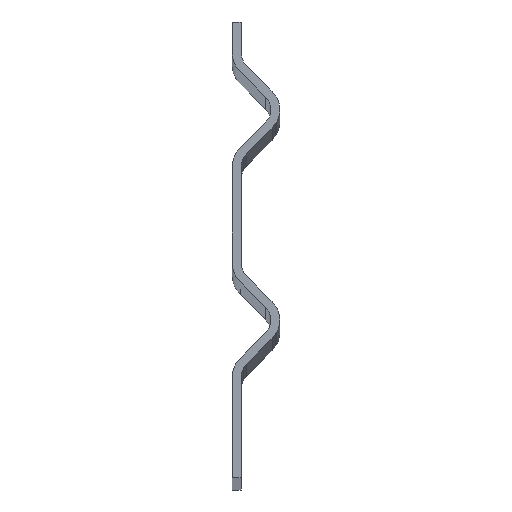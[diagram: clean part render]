
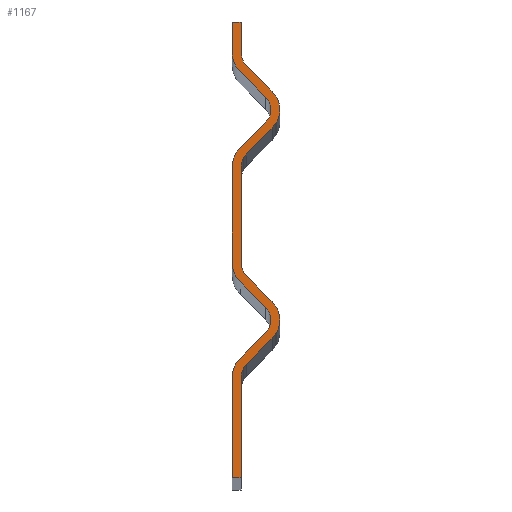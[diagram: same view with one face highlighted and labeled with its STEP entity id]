
A CAD part, top view. The second image highlights one B-rep face of the part: STEP entity #1167.
In plain terms, the highlighted planar face has unit normal (0, 0, 1).
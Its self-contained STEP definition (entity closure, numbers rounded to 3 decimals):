
#429=CARTESIAN_POINT('',(0.,28.822,36.5));
#430=VERTEX_POINT('',#429);
#431=CARTESIAN_POINT('',(2.197,34.126,36.5));
#432=VERTEX_POINT('',#431);
#433=CARTESIAN_POINT('',(7.5,28.822,36.5));
#434=DIRECTION('',(0.0,0.0,-1.));
#435=DIRECTION('',(0.707,-0.707,0.0));
#436=AXIS2_PLACEMENT_3D('',#433,#434,#435);
#437=CIRCLE('',#436,7.5);
#438=EDGE_CURVE('',#430,#432,#437,.T.);
#461=CARTESIAN_POINT('',(9.536,41.464,36.5));
#462=VERTEX_POINT('',#461);
#463=CARTESIAN_POINT('',(2.197,34.126,36.5));
#464=DIRECTION('',(0.707,0.707,0.0));
#465=VECTOR('',#464,10.379);
#466=LINE('',#463,#465);
#467=EDGE_CURVE('',#432,#462,#466,.T.);
#485=CARTESIAN_POINT('',(9.536,48.536,36.5));
#486=VERTEX_POINT('',#485);
#487=CARTESIAN_POINT('',(6.,45.0,36.5));
#488=DIRECTION('',(0.0,0.0,1.));
#489=DIRECTION('',(0.707,-0.707,0.0));
#490=AXIS2_PLACEMENT_3D('',#487,#488,#489);
#491=CIRCLE('',#490,5.);
#492=EDGE_CURVE('',#462,#486,#491,.T.);
#510=CARTESIAN_POINT('',(2.197,55.874,36.5));
#511=VERTEX_POINT('',#510);
#512=CARTESIAN_POINT('',(9.536,48.536,36.5));
#513=DIRECTION('',(-0.707,0.707,0.0));
#514=VECTOR('',#513,10.379);
#515=LINE('',#512,#514);
#516=EDGE_CURVE('',#486,#511,#515,.T.);
#534=CARTESIAN_POINT('',(0.,61.178,36.5));
#535=VERTEX_POINT('',#534);
#536=CARTESIAN_POINT('',(7.5,61.178,36.5));
#537=DIRECTION('',(0.0,0.0,-1.0));
#538=DIRECTION('',(1.0,0.0,0.0));
#539=AXIS2_PLACEMENT_3D('',#536,#537,#538);
#540=CIRCLE('',#539,7.5);
#541=EDGE_CURVE('',#511,#535,#540,.T.);
#559=CARTESIAN_POINT('',(0.,88.822,36.5));
#560=VERTEX_POINT('',#559);
#561=CARTESIAN_POINT('',(0.,61.178,36.5));
#562=DIRECTION('',(0.0,1.0,0.0));
#563=VECTOR('',#562,27.645);
#564=LINE('',#561,#563);
#565=EDGE_CURVE('',#535,#560,#564,.T.);
#595=CARTESIAN_POINT('',(2.197,94.126,36.5));
#596=VERTEX_POINT('',#595);
#597=CARTESIAN_POINT('',(7.5,88.822,36.5));
#598=DIRECTION('',(0.0,0.0,-1.0));
#599=DIRECTION('',(0.707,-0.707,0.0));
#600=AXIS2_PLACEMENT_3D('',#597,#598,#599);
#601=CIRCLE('',#600,7.5);
#602=EDGE_CURVE('',#560,#596,#601,.T.);
#620=CARTESIAN_POINT('',(9.536,101.464,36.5));
#621=VERTEX_POINT('',#620);
#622=CARTESIAN_POINT('',(2.197,94.126,36.5));
#623=DIRECTION('',(0.707,0.707,0.0));
#624=VECTOR('',#623,10.379);
#625=LINE('',#622,#624);
#626=EDGE_CURVE('',#596,#621,#625,.T.);
#644=CARTESIAN_POINT('',(9.536,108.536,36.5));
#645=VERTEX_POINT('',#644);
#646=CARTESIAN_POINT('',(6.,105.0,36.5));
#647=DIRECTION('',(0.0,0.0,1.0));
#648=DIRECTION('',(0.707,-0.707,0.0));
#649=AXIS2_PLACEMENT_3D('',#646,#647,#648);
#650=CIRCLE('',#649,5.0);
#651=EDGE_CURVE('',#621,#645,#650,.T.);
#669=CARTESIAN_POINT('',(2.197,115.874,36.5));
#670=VERTEX_POINT('',#669);
#671=CARTESIAN_POINT('',(9.536,108.536,36.5));
#672=DIRECTION('',(-0.707,0.707,0.0));
#673=VECTOR('',#672,10.379);
#674=LINE('',#671,#673);
#675=EDGE_CURVE('',#645,#670,#674,.T.);
#693=CARTESIAN_POINT('',(0.,121.178,36.5));
#694=VERTEX_POINT('',#693);
#695=CARTESIAN_POINT('',(7.5,121.178,36.5));
#696=DIRECTION('',(0.0,0.0,-1.0));
#697=DIRECTION('',(1.0,0.0,0.0));
#698=AXIS2_PLACEMENT_3D('',#695,#696,#697);
#699=CIRCLE('',#698,7.5);
#700=EDGE_CURVE('',#670,#694,#699,.T.);
#718=CARTESIAN_POINT('',(0.0,130.0,36.5));
#719=VERTEX_POINT('',#718);
#720=CARTESIAN_POINT('',(0.,121.178,36.5));
#721=DIRECTION('',(0.0,1.0,0.0));
#722=VECTOR('',#721,8.822);
#723=LINE('',#720,#722);
#724=EDGE_CURVE('',#694,#719,#723,.T.);
#742=CARTESIAN_POINT('',(2.5,130.0,36.5));
#743=VERTEX_POINT('',#742);
#744=CARTESIAN_POINT('',(0.0,130.0,36.5));
#745=DIRECTION('',(1.0,0.0,0.0));
#746=VECTOR('',#745,2.5);
#747=LINE('',#744,#746);
#748=EDGE_CURVE('',#719,#743,#747,.T.);
#766=CARTESIAN_POINT('',(2.5,121.178,36.5));
#767=VERTEX_POINT('',#766);
#768=CARTESIAN_POINT('',(2.5,130.0,36.5));
#769=DIRECTION('',(0.0,-1.0,0.0));
#770=VECTOR('',#769,8.822);
#771=LINE('',#768,#770);
#772=EDGE_CURVE('',#743,#767,#771,.T.);
#790=CARTESIAN_POINT('',(3.964,117.642,36.5));
#791=VERTEX_POINT('',#790);
#792=CARTESIAN_POINT('',(7.5,121.178,36.5));
#793=DIRECTION('',(0.0,0.0,1.0));
#794=DIRECTION('',(-1.0,0.0,0.0));
#795=AXIS2_PLACEMENT_3D('',#792,#793,#794);
#796=CIRCLE('',#795,5.0);
#797=EDGE_CURVE('',#767,#791,#796,.T.);
#815=CARTESIAN_POINT('',(11.303,110.303,36.5));
#816=VERTEX_POINT('',#815);
#817=CARTESIAN_POINT('',(3.964,117.642,36.5));
#818=DIRECTION('',(0.707,-0.707,0.0));
#819=VECTOR('',#818,10.379);
#820=LINE('',#817,#819);
#821=EDGE_CURVE('',#791,#816,#820,.T.);
#839=CARTESIAN_POINT('',(11.303,99.697,36.5));
#840=VERTEX_POINT('',#839);
#841=CARTESIAN_POINT('',(6.,105.0,36.5));
#842=DIRECTION('',(0.0,0.0,-1.0));
#843=DIRECTION('',(-0.707,0.707,0.0));
#844=AXIS2_PLACEMENT_3D('',#841,#842,#843);
#845=CIRCLE('',#844,7.5);
#846=EDGE_CURVE('',#816,#840,#845,.T.);
#864=CARTESIAN_POINT('',(3.964,92.358,36.5));
#865=VERTEX_POINT('',#864);
#866=CARTESIAN_POINT('',(11.303,99.697,36.5));
#867=DIRECTION('',(-0.707,-0.707,0.0));
#868=VECTOR('',#867,10.379);
#869=LINE('',#866,#868);
#870=EDGE_CURVE('',#840,#865,#869,.T.);
#888=CARTESIAN_POINT('',(2.5,88.822,36.5));
#889=VERTEX_POINT('',#888);
#890=CARTESIAN_POINT('',(7.5,88.822,36.5));
#891=DIRECTION('',(0.0,0.0,1.0));
#892=DIRECTION('',(-0.707,0.707,0.0));
#893=AXIS2_PLACEMENT_3D('',#890,#891,#892);
#894=CIRCLE('',#893,5.);
#895=EDGE_CURVE('',#865,#889,#894,.T.);
#913=CARTESIAN_POINT('',(2.5,61.178,36.5));
#914=VERTEX_POINT('',#913);
#915=CARTESIAN_POINT('',(2.5,88.822,36.5));
#916=DIRECTION('',(0.0,-1.0,0.0));
#917=VECTOR('',#916,27.645);
#918=LINE('',#915,#917);
#919=EDGE_CURVE('',#889,#914,#918,.T.);
#949=CARTESIAN_POINT('',(3.964,57.642,36.5));
#950=VERTEX_POINT('',#949);
#951=CARTESIAN_POINT('',(7.5,61.178,36.5));
#952=DIRECTION('',(0.0,0.0,1.0));
#953=DIRECTION('',(-1.0,0.0,0.0));
#954=AXIS2_PLACEMENT_3D('',#951,#952,#953);
#955=CIRCLE('',#954,5.0);
#956=EDGE_CURVE('',#914,#950,#955,.T.);
#974=CARTESIAN_POINT('',(11.303,50.303,36.5));
#975=VERTEX_POINT('',#974);
#976=CARTESIAN_POINT('',(3.964,57.642,36.5));
#977=DIRECTION('',(0.707,-0.707,0.0));
#978=VECTOR('',#977,10.379);
#979=LINE('',#976,#978);
#980=EDGE_CURVE('',#950,#975,#979,.T.);
#998=CARTESIAN_POINT('',(11.303,39.697,36.5));
#999=VERTEX_POINT('',#998);
#1000=CARTESIAN_POINT('',(6.,45.0,36.5));
#1001=DIRECTION('',(0.0,0.0,-1.0));
#1002=DIRECTION('',(-0.707,0.707,0.0));
#1003=AXIS2_PLACEMENT_3D('',#1000,#1001,#1002);
#1004=CIRCLE('',#1003,7.5);
#1005=EDGE_CURVE('',#975,#999,#1004,.T.);
#1023=CARTESIAN_POINT('',(3.964,32.358,36.5));
#1024=VERTEX_POINT('',#1023);
#1025=CARTESIAN_POINT('',(11.303,39.697,36.5));
#1026=DIRECTION('',(-0.707,-0.707,0.0));
#1027=VECTOR('',#1026,10.379);
#1028=LINE('',#1025,#1027);
#1029=EDGE_CURVE('',#999,#1024,#1028,.T.);
#1047=CARTESIAN_POINT('',(2.5,28.822,36.5));
#1048=VERTEX_POINT('',#1047);
#1049=CARTESIAN_POINT('',(7.5,28.822,36.5));
#1050=DIRECTION('',(0.0,0.0,1.0));
#1051=DIRECTION('',(-0.707,0.707,0.0));
#1052=AXIS2_PLACEMENT_3D('',#1049,#1050,#1051);
#1053=CIRCLE('',#1052,5.0);
#1054=EDGE_CURVE('',#1024,#1048,#1053,.T.);
#1072=CARTESIAN_POINT('',(2.5,0.0,36.5));
#1073=VERTEX_POINT('',#1072);
#1074=CARTESIAN_POINT('',(2.5,28.822,36.5));
#1075=DIRECTION('',(0.0,-1.0,0.0));
#1076=VECTOR('',#1075,28.822);
#1077=LINE('',#1074,#1076);
#1078=EDGE_CURVE('',#1048,#1073,#1077,.T.);
#1096=CARTESIAN_POINT('',(0.0,0.0,36.5));
#1097=VERTEX_POINT('',#1096);
#1098=CARTESIAN_POINT('',(2.5,0.0,36.5));
#1099=DIRECTION('',(-1.0,0.0,0.0));
#1100=VECTOR('',#1099,2.5);
#1101=LINE('',#1098,#1100);
#1102=EDGE_CURVE('',#1073,#1097,#1101,.T.);
#1120=CARTESIAN_POINT('',(0.0,0.0,36.5));
#1121=DIRECTION('',(0.0,1.0,0.0));
#1122=VECTOR('',#1121,28.822);
#1123=LINE('',#1120,#1122);
#1124=EDGE_CURVE('',#1097,#430,#1123,.T.);
#1132=CARTESIAN_POINT('',(4.228,66.082,36.5));
#1133=DIRECTION('',(0.0,0.0,1.0));
#1134=DIRECTION('',(1.0,0.0,0.0));
#1135=AXIS2_PLACEMENT_3D('',#1132,#1133,#1134);
#1136=PLANE('',#1135);
#1137=ORIENTED_EDGE('',*,*,#438,.F.);
#1138=ORIENTED_EDGE('',*,*,#1124,.F.);
#1139=ORIENTED_EDGE('',*,*,#1102,.F.);
#1140=ORIENTED_EDGE('',*,*,#1078,.F.);
#1141=ORIENTED_EDGE('',*,*,#1054,.F.);
#1142=ORIENTED_EDGE('',*,*,#1029,.F.);
#1143=ORIENTED_EDGE('',*,*,#1005,.F.);
#1144=ORIENTED_EDGE('',*,*,#980,.F.);
#1145=ORIENTED_EDGE('',*,*,#956,.F.);
#1146=ORIENTED_EDGE('',*,*,#919,.F.);
#1147=ORIENTED_EDGE('',*,*,#895,.F.);
#1148=ORIENTED_EDGE('',*,*,#870,.F.);
#1149=ORIENTED_EDGE('',*,*,#846,.F.);
#1150=ORIENTED_EDGE('',*,*,#821,.F.);
#1151=ORIENTED_EDGE('',*,*,#797,.F.);
#1152=ORIENTED_EDGE('',*,*,#772,.F.);
#1153=ORIENTED_EDGE('',*,*,#748,.F.);
#1154=ORIENTED_EDGE('',*,*,#724,.F.);
#1155=ORIENTED_EDGE('',*,*,#700,.F.);
#1156=ORIENTED_EDGE('',*,*,#675,.F.);
#1157=ORIENTED_EDGE('',*,*,#651,.F.);
#1158=ORIENTED_EDGE('',*,*,#626,.F.);
#1159=ORIENTED_EDGE('',*,*,#602,.F.);
#1160=ORIENTED_EDGE('',*,*,#565,.F.);
#1161=ORIENTED_EDGE('',*,*,#541,.F.);
#1162=ORIENTED_EDGE('',*,*,#516,.F.);
#1163=ORIENTED_EDGE('',*,*,#492,.F.);
#1164=ORIENTED_EDGE('',*,*,#467,.F.);
#1165=EDGE_LOOP('',(#1137,#1138,#1139,#1140,#1141,#1142,#1143,#1144,#1145,#1146,#1147,#1148,#1149,#1150,#1151,#1152,#1153,#1154,#1155,#1156,#1157,#1158,#1159,#1160,#1161,#1162,#1163,#1164));
#1166=FACE_OUTER_BOUND('',#1165,.T.);
#1167=ADVANCED_FACE('',(#1166),#1136,.T.);
